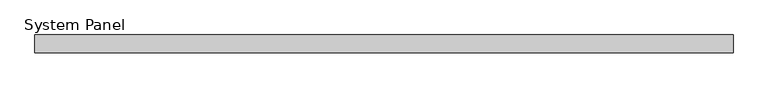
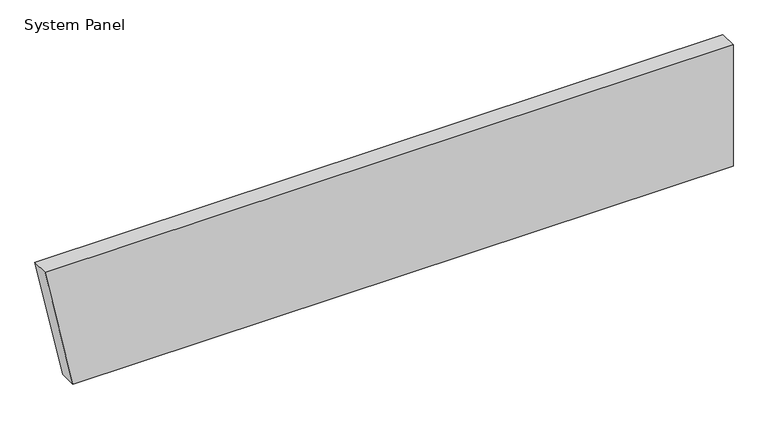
"""IFC4 building model written with IfcOpenShell, lengths in millimetres: plate geometry, System Panel : MetecnoPanel 150mm Horizontal - Plain Astro - PIR."""

from ifc_helpers import new_model, si_unit, frame, origin, place, context, project, spatial, polyline, outline, extrude, source, transform, mapped, element, save


def system_panel_aee32327(model_context):
    return source(origin(), model_context, "Body", "SweptSolid", [
        extrude(outline(polyline([(0.0, -2709.5661783), (0.0, 2948.698535), (1100.0, 2948.698535), (1100.0, -2948.698535), (0.0, -2709.5661783)])), frame((0.0, -150.0, 0.0), z_axis=(0.0, 1.0, 0.0), x_axis=(0.0, 0.0, 1.0)), (0.0, 0.0, 1.0), 150.0),
    ])


if __name__ == "__main__":
    model = new_model("IFC4")
    model_context = context("Model", 3, world=origin())
    ifc_project = project(units=[si_unit("LENGTHUNIT", "METRE", prefix="MILLI")], contexts=[model_context])
    site = spatial("IfcSite", under=ifc_project)
    building = spatial("IfcBuilding", under=site)
    placement = place(None, origin())
    system_panel_shape = system_panel_aee32327(model_context)
    element("IfcPlate", 1, ObjectType="System Panel : MetecnoPanel 150mm Horizontal - Plain Astro - PIR", at=placement, inside=building, context=model_context, shape_type="MappedRepresentation", body=[
        mapped(system_panel_shape, transform((0.0, 0.0, 0.0), x_axis=(1.0, 0.0, 0.0), y_axis=(0.0, 1.0, 0.0), z_axis=(0.0, 0.0, 1.0))),
    ])
    save(model, "model.ifc")
